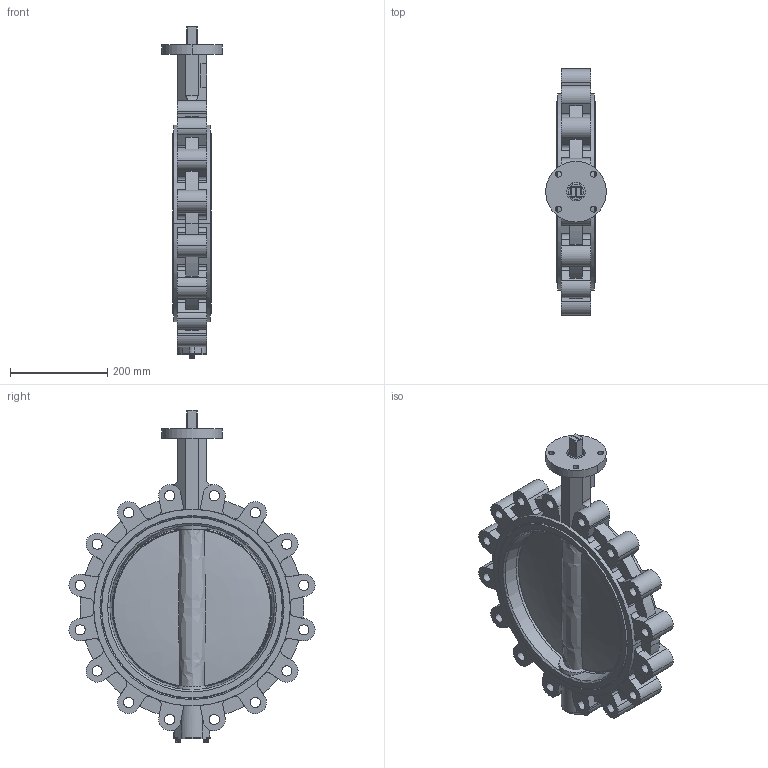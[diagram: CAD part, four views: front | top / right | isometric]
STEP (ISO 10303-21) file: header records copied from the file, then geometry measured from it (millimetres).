
FILE_DESCRIPTION(('Open CASCADE Model'),'2;1');
FILE_NAME('Open CASCADE Shape Model','2022-03-10T13:28:56',('Author'),( 'Open CASCADE'),'Open CASCADE STEP processor 7.3','Open CASCADE 7.3' ,'Unknown');
FILE_SCHEMA(('AUTOMOTIVE_DESIGN { 1 0 10303 214 1 1 1 1 }'));
Length unit declared in the file: millimetre
Products named in the file (13): Open CASCADE STEP translator 7.3 1; Open CASCADE STEP translator 7.3 1.1; Open CASCADE STEP translator 7.3 1.2; Open CASCADE STEP translator 7.3 1.3; Open CASCADE STEP translator 7.3 1.4; Open CASCADE STEP translator 7.3 1.5; Open CASCADE STEP translator 7.3 1.6; Open CASCADE STEP translator 7.3 1.7; Open CASCADE STEP translator 7.3 1.8; Open CASCADE STEP translator 7.3 1.9; Open CASCADE STEP translator 7.3 1.10; Open CASCADE STEP translator 7.3 1.11; Open CASCADE STEP translator 7.3 1.12
Assembly tree (12 placements, depth 2):
  Open CASCADE STEP translator 7.3 1
    Open CASCADE STEP translator 7.3 1.1
    Open CASCADE STEP translator 7.3 1.2
    Open CASCADE STEP translator 7.3 1.3
    Open CASCADE STEP translator 7.3 1.4
    Open CASCADE STEP translator 7.3 1.5
    Open CASCADE STEP translator 7.3 1.6
    Open CASCADE STEP translator 7.3 1.7
    Open CASCADE STEP translator 7.3 1.8
    Open CASCADE STEP translator 7.3 1.9
    Open CASCADE STEP translator 7.3 1.10
    Open CASCADE STEP translator 7.3 1.11
    Open CASCADE STEP translator 7.3 1.12
Bounding box: 125 x 506.96 x 683.9 mm (x, y, z)
Volume: 8039374.5 mm3; surface area: 1030305.9 mm2
Topology: 12 solids, 12 shells, 549 faces, 1471 edges, 959 vertices
Faces by surface type: cylinder 250, plane 220, cone 57, torus 16, revolution 4, bspline 2
Entity records: 46111 total; most frequent: CARTESIAN_POINT 16915, DIRECTION 5518, ORIENTED_EDGE 2930, PCURVE 2930, DEFINITIONAL_REPRESENTATION 2930, LINE 2757, VECTOR 2757, EDGE_CURVE 1465
